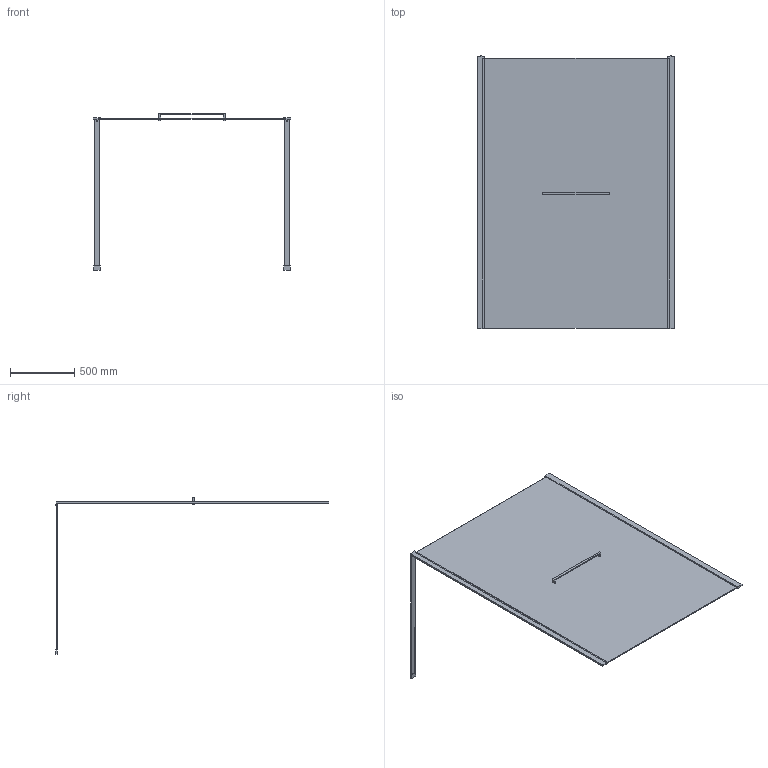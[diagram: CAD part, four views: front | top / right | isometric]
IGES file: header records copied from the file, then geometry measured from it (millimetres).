
Start section: SolidWorks IGES file using analytic representation for surfaces
Global section: file name: D:\Users\M.Szymanski\Desktop\Kabiny\PII_ALT2\03. do przegrania\PII_ALTIIa_150_wspornik poziomy_K3D.IGS; native system: SolidWorks 2011; preprocessor: SolidWorks 2011; author: M.Szymanski; date: 181003.105956; units: millimetre
Bounding box: 1532.8 x 2124.7 x 1220.5 mm (x, y, z)
Surface area: 7054011.6 mm2 (no closed solid volume)
Topology: 0 solids, 0 shells, 70 faces, 440 edges, 556 vertices
Faces by surface type: bspline 62, revolution 8
